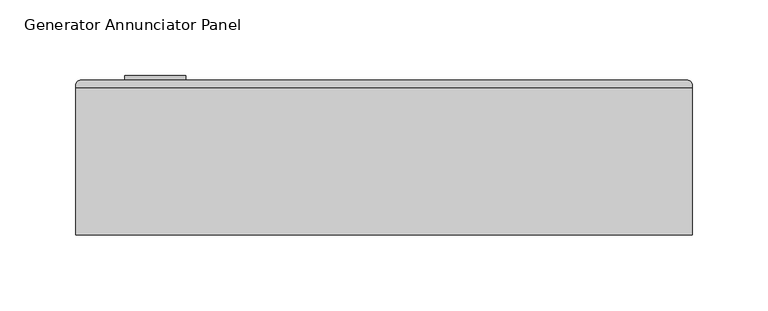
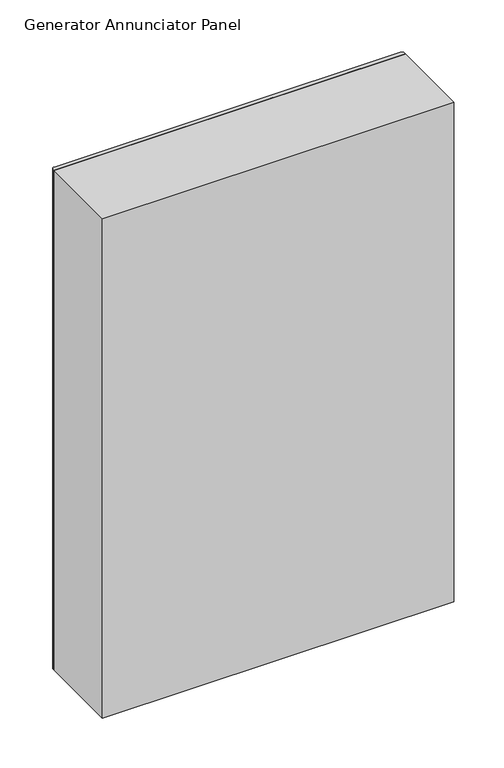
"""IFC4 building model written with IfcOpenShell, lengths in millimetres: proxy geometry, Generator_Annunciator_Panel_Wallmount_BIM_Model_Config6 : Generator Annunciator Panel."""

from ifc_helpers import new_model, si_unit, point, frame, frame_2d, origin, place, context, project, spatial, polyline, circle_curve, trimmed, segment, composite_curve, outline, extrude, source, transform, mapped, element, save


def generator_annunciator_panel_e31edde5(model_context):
    return source(origin(), model_context, "Body", "SweptSolid", [
        extrude(outline(composite_curve([segment(trimmed(circle_curve(frame_2d((841.0, -25.7242533)), 20.0), [point((841.0, -45.7242533))], [point((841.0, -5.7242533))], False, "CARTESIAN"), True, "CONTINUOUS"), segment(trimmed(circle_curve(frame_2d((841.0, -25.7242533)), 20.0), [point((841.0, -5.7242533))], [point((841.0, -45.7242533))], False, "CARTESIAN"), True, "CONTINUOUS")], self_intersect=False), holes=[polyline([(848.2746144, -27.5), (848.2746144, -22.5), (833.2746144, -22.5), (833.2746144, -27.5), (848.2746144, -27.5)])]), frame((0.0, 143.0, 0.0), z_axis=(0.0, 1.0, 0.0), x_axis=(0.0, 0.0, 1.0)), (0.0, 0.0, 1.0), 3.0),
        extrude(outline(composite_curve([segment(trimmed(circle_curve(frame_2d((325.0, 140.0)), 3.0), [point((325.0, 143.0))], [point((328.0, 140.0))], False, "CARTESIAN"), True, "CONTINUOUS"), segment(polyline([(328.0, 140.0), (328.0, 138.1182851), (-78.0, 138.1182851), (-78.0, 140.0)]), True, "CONTINUOUS"), segment(trimmed(circle_curve(frame_2d((-75.0, 140.0)), 3.0), [point((-78.0, 140.0))], [point((-75.0, 143.0))], False, "CARTESIAN"), True, "CONTINUOUS"), segment(polyline([(-75.0, 143.0), (325.0, 143.0)]), True, "CONTINUOUS")], self_intersect=False)), frame((0.0, 0.0, 460.0), z_axis=(0.0, 0.0, 1.0), x_axis=(1.0, 0.0, 0.0)), (0.0, 0.0, 1.0), 610.0),
        extrude(outline(polyline([(328.0, 138.1182851), (328.0, 41.0), (-78.0, 41.0), (-78.0, 138.1182851), (328.0, 138.1182851)])), frame((0.0, 0.0, 460.0), z_axis=(0.0, 0.0, 1.0), x_axis=(1.0, 0.0, 0.0)), (0.0, 0.0, 1.0), 610.0),
    ])


if __name__ == "__main__":
    model = new_model("IFC4")
    model_context = context("Model", 3, world=origin())
    ifc_project = project(units=[si_unit("LENGTHUNIT", "METRE", prefix="MILLI")], contexts=[model_context])
    site = spatial("IfcSite", under=ifc_project)
    building = spatial("IfcBuilding", under=site)
    placement = place(None, origin())
    generator_annunciator_panel_shape = generator_annunciator_panel_e31edde5(model_context)
    element("IfcBuildingElementProxy", 1, Name="Generator_Annunciator_Panel_Wallmount_BIM_Model_Config6 : Generator Annunciator Panel", ObjectType="Generator_Annunciator_Panel_Wallmount_BIM_Model_Config6 : Generator Annunciator Panel", at=placement, inside=building, context=model_context, shape_type="MappedRepresentation", body=[
        mapped(generator_annunciator_panel_shape, transform((0.0, 0.0, 0.0), x_axis=(1.0, 0.0, 0.0), y_axis=(0.0, 1.0, 0.0), z_axis=(0.0, 0.0, 1.0))),
    ])
    save(model, "model.ifc")
